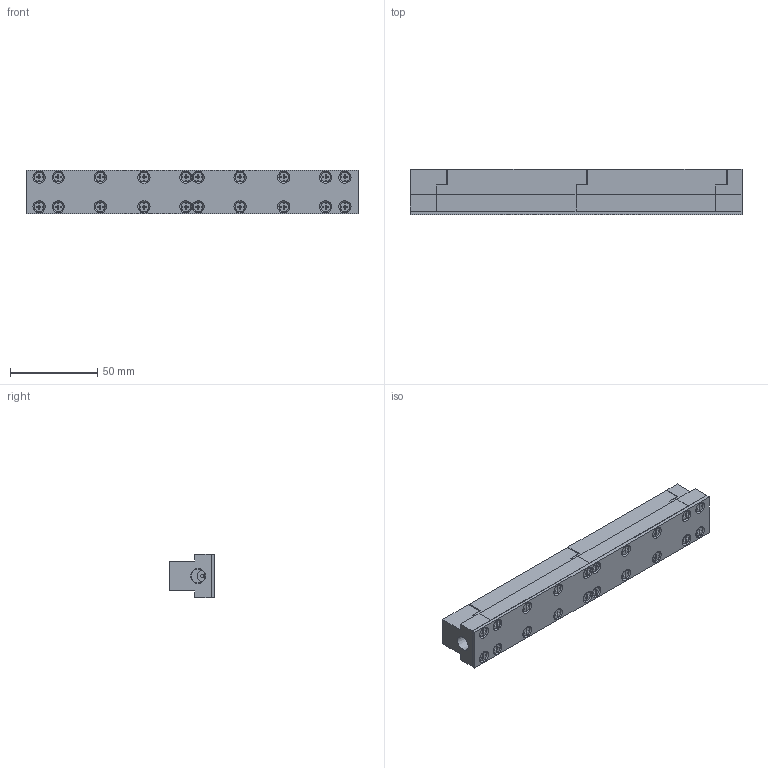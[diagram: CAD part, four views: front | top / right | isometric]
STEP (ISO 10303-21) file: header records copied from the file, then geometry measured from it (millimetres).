
FILE_DESCRIPTION( ( 'STEP AP214' ), '1' );
FILE_NAME( 'Z:/01-DesignData/標準品図面/★Web／カタログ用データ(型式別 3点Set)/073-ISR-18T/ISR-18T-190_0_.stp', '2022-05-10T02:50:18', ( 'License CC BY-ND 4.0' ), ( 'CADENAS' ), ' ', 'PARTsolutions', ' ' );
FILE_SCHEMA( ( 'AUTOMOTIVE_DESIGN { 1 0 10303 214 1 1 1 1 }' ) );
Length unit declared in the file: millimetre
Products named in the file (6): ISR-18T-190(0); _ISR-18T-190(0)_body; _ISR-18T-190_lc; _ISR-18T-190_rc; _M3x10; _ISR-18T-190_ball
Assembly tree (15 placements, depth 2):
  ISR-18T-190(0)
    _ISR-18T-190(0)_body
    _ISR-18T-190_lc
    _ISR-18T-190_rc
    _M3x10  x6
    _ISR-18T-190_ball  x6
Bounding box: 190 x 26 x 25 mm (x, y, z)
Volume: 93530.2 mm3; surface area: 47504.4 mm2
Topology: 15 solids, 15 shells, 583 faces, 1398 edges, 921 vertices
Faces by surface type: plane 452, cylinder 78, cone 41, torus 6, sphere 6
Full cylindrical faces by diameter (mm): 2 x2, 2.459 x6, 3 x6, 3.5 x6, 5.5 x26, 6.2 x1, 8 x1, 13.4 x6, 14 x6, 20 x12
Entity records: 17584 total; most frequent: CARTESIAN_POINT 2375, DIRECTION 2230, ORIENTED_EDGE 2196, EDGE_CURVE 1098, LINE 954, VECTOR 954, VERTEX_POINT 783, AXIS2_PLACEMENT_3D 638
